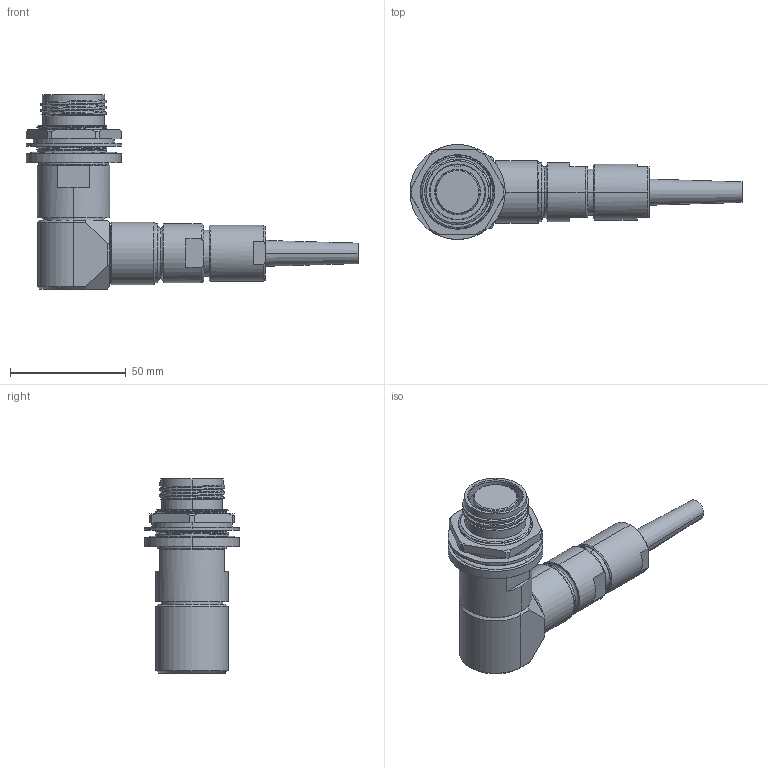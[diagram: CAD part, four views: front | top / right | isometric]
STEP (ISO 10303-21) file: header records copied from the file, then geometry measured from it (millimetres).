
FILE_DESCRIPTION (( 'STEP AP214' ), '1' );
FILE_NAME ('QLINK90-RJTX-17XX-SXXX.STEP', '2025-10-22T15:38:07', ( '' ), ( '' ), 'SwSTEP 2.0', 'SolidWorks 2024', '' );
FILE_SCHEMA (( 'AUTOMOTIVE_DESIGN' ));
Length unit declared in the file: millimetre
Products named in the file (1): QLINK90-RJTX-17XX-SXXX
Bounding box: 143.2 x 41.02 x 83.69 mm (x, y, z)
Volume: 99301.2 mm3; surface area: 28091.1 mm2
Topology: 2 solids, 2 shells, 297 faces, 761 edges, 489 vertices
Faces by surface type: cylinder 99, plane 71, cone 62, bspline 42, torus 23
Entity records: 22124 total; most frequent: CARTESIAN_POINT 15431, ORIENTED_EDGE 1522, DIRECTION 1280, EDGE_CURVE 761, AXIS2_PLACEMENT_3D 516, VERTEX_POINT 489, EDGE_LOOP 328, FACE_OUTER_BOUND 297
